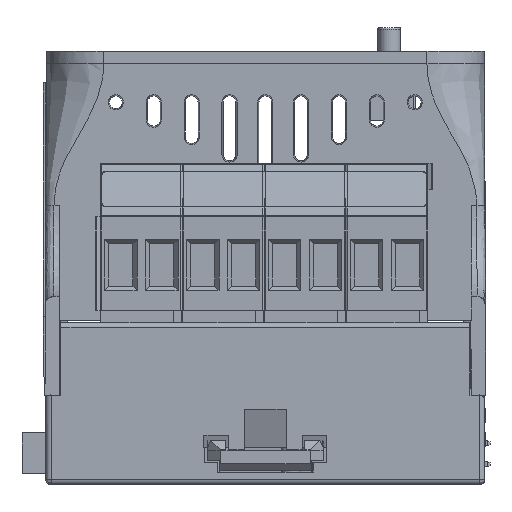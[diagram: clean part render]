
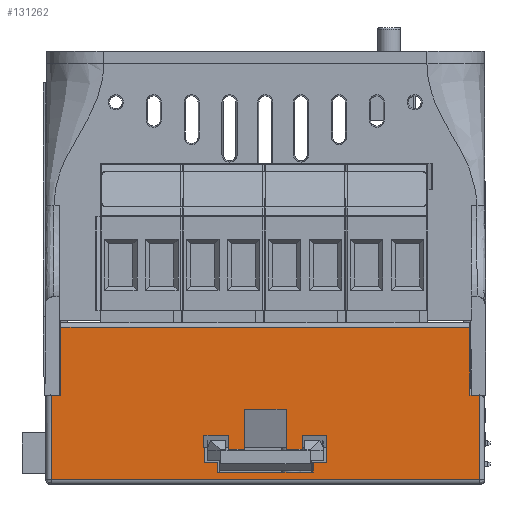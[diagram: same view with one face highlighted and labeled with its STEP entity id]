
A CAD part, front view. The second image highlights one B-rep face of the part: STEP entity #131262.
In plain terms, the highlighted planar face has unit normal (0, -1, 0).
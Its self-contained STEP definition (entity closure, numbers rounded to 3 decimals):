
#2484=FACE_BOUND('',#42693,.T.);
#5426=LINE('',#195409,#21132);
#5589=LINE('',#197328,#21295);
#5607=LINE('',#197555,#21313);
#5608=LINE('',#197560,#21314);
#5656=LINE('',#197682,#21362);
#5701=LINE('',#197781,#21407);
#5707=LINE('',#197793,#21413);
#5726=LINE('',#197834,#21432);
#5747=LINE('',#197876,#21453);
#5749=LINE('',#197881,#21455);
#6565=LINE('',#199933,#22271);
#6566=LINE('',#199936,#22272);
#6568=LINE('',#199940,#22274);
#6570=LINE('',#199944,#22276);
#6573=LINE('',#199949,#22279);
#6574=LINE('',#199951,#22280);
#6576=LINE('',#199955,#22282);
#6578=LINE('',#199959,#22284);
#6579=LINE('',#199962,#22285);
#6581=LINE('',#199965,#22287);
#6582=LINE('',#199968,#22288);
#6583=LINE('',#199970,#22289);
#6584=LINE('',#199973,#22290);
#6585=LINE('',#199975,#22291);
#6586=LINE('',#199977,#22292);
#6587=LINE('',#199979,#22293);
#21132=VECTOR('',#150885,1.);
#21295=VECTOR('',#151350,1.);
#21313=VECTOR('',#151400,1.);
#21314=VECTOR('',#151407,1.);
#21362=VECTOR('',#151515,1.);
#21407=VECTOR('',#151602,1.);
#21413=VECTOR('',#151610,1.);
#21432=VECTOR('',#151635,1.);
#21453=VECTOR('',#151662,1.);
#21455=VECTOR('',#151666,1.);
#22271=VECTOR('',#153512,1.);
#22272=VECTOR('',#153515,1.);
#22274=VECTOR('',#153519,1.);
#22276=VECTOR('',#153523,1.);
#22279=VECTOR('',#153528,1.);
#22280=VECTOR('',#153531,1.);
#22282=VECTOR('',#153535,1.);
#22284=VECTOR('',#153539,1.);
#22285=VECTOR('',#153542,1.);
#22287=VECTOR('',#153546,1.);
#22288=VECTOR('',#153551,1.);
#22289=VECTOR('',#153554,1.);
#22290=VECTOR('',#153559,1.);
#22291=VECTOR('',#153562,1.);
#22292=VECTOR('',#153565,1.);
#22293=VECTOR('',#153568,1.);
#35817=FACE_OUTER_BOUND('',#42692,.T.);
#42692=EDGE_LOOP('',(#90207,#90208,#90209,#90210,#90211,#90212,#90213,#90214,
#90215,#90216));
#42693=EDGE_LOOP('',(#90217,#90218,#90219,#90220,#90221,#90222,#90223,#90224,
#90225,#90226,#90227,#90228,#90229,#90230,#90231,#90232));
#52354=VERTEX_POINT('',#194579);
#52449=VERTEX_POINT('',#195408);
#52584=VERTEX_POINT('',#197314);
#52586=VERTEX_POINT('',#197327);
#52599=VERTEX_POINT('',#197554);
#52600=VERTEX_POINT('',#197558);
#52643=VERTEX_POINT('',#197679);
#52644=VERTEX_POINT('',#197681);
#52676=VERTEX_POINT('',#197778);
#52677=VERTEX_POINT('',#197780);
#52681=VERTEX_POINT('',#197790);
#52682=VERTEX_POINT('',#197792);
#52700=VERTEX_POINT('',#197831);
#52701=VERTEX_POINT('',#197833);
#52719=VERTEX_POINT('',#197874);
#52721=VERTEX_POINT('',#197880);
#53293=VERTEX_POINT('',#199872);
#53297=VERTEX_POINT('',#199905);
#53298=VERTEX_POINT('',#199931);
#53299=VERTEX_POINT('',#199935);
#53300=VERTEX_POINT('',#199939);
#53301=VERTEX_POINT('',#199943);
#53302=VERTEX_POINT('',#199947);
#53303=VERTEX_POINT('',#199953);
#53304=VERTEX_POINT('',#199957);
#53305=VERTEX_POINT('',#199961);
#65575=EDGE_CURVE('',#52449,#52354,#5426,.T.);
#65830=EDGE_CURVE('',#52586,#52584,#5589,.T.);
#65858=EDGE_CURVE('',#52599,#52449,#5607,.T.);
#65861=EDGE_CURVE('',#52584,#52600,#5608,.T.);
#65923=EDGE_CURVE('',#52644,#52643,#5656,.T.);
#65975=EDGE_CURVE('',#52677,#52676,#5701,.T.);
#65981=EDGE_CURVE('',#52681,#52682,#5707,.T.);
#66002=EDGE_CURVE('',#52700,#52701,#5726,.T.);
#66025=EDGE_CURVE('',#52676,#52719,#5747,.T.);
#66027=EDGE_CURVE('',#52721,#52677,#5749,.T.);
#67000=EDGE_CURVE('',#52700,#53298,#6565,.T.);
#67001=EDGE_CURVE('',#52701,#53299,#6566,.T.);
#67003=EDGE_CURVE('',#53300,#53299,#6568,.T.);
#67005=EDGE_CURVE('',#53301,#52721,#6570,.T.);
#67008=EDGE_CURVE('',#53302,#53301,#6573,.T.);
#67009=EDGE_CURVE('',#53302,#52681,#6574,.T.);
#67011=EDGE_CURVE('',#53303,#52682,#6576,.T.);
#67013=EDGE_CURVE('',#53303,#53304,#6578,.T.);
#67014=EDGE_CURVE('',#53305,#53304,#6579,.T.);
#67016=EDGE_CURVE('',#53305,#53298,#6581,.T.);
#67017=EDGE_CURVE('',#52643,#52599,#6582,.T.);
#67018=EDGE_CURVE('',#52644,#52600,#6583,.T.);
#67019=EDGE_CURVE('',#53293,#52586,#6584,.T.);
#67020=EDGE_CURVE('',#53297,#53293,#6585,.T.);
#67021=EDGE_CURVE('',#52354,#53297,#6586,.T.);
#67022=EDGE_CURVE('',#52719,#53300,#6587,.T.);
#90207=ORIENTED_EDGE('',*,*,#67021,.T.);
#90208=ORIENTED_EDGE('',*,*,#67020,.T.);
#90209=ORIENTED_EDGE('',*,*,#67019,.T.);
#90210=ORIENTED_EDGE('',*,*,#65830,.T.);
#90211=ORIENTED_EDGE('',*,*,#65861,.T.);
#90212=ORIENTED_EDGE('',*,*,#67018,.F.);
#90213=ORIENTED_EDGE('',*,*,#65923,.T.);
#90214=ORIENTED_EDGE('',*,*,#67017,.T.);
#90215=ORIENTED_EDGE('',*,*,#65858,.T.);
#90216=ORIENTED_EDGE('',*,*,#65575,.T.);
#90217=ORIENTED_EDGE('',*,*,#67016,.F.);
#90218=ORIENTED_EDGE('',*,*,#67014,.T.);
#90219=ORIENTED_EDGE('',*,*,#67013,.F.);
#90220=ORIENTED_EDGE('',*,*,#67011,.T.);
#90221=ORIENTED_EDGE('',*,*,#65981,.F.);
#90222=ORIENTED_EDGE('',*,*,#67009,.F.);
#90223=ORIENTED_EDGE('',*,*,#67008,.T.);
#90224=ORIENTED_EDGE('',*,*,#67005,.T.);
#90225=ORIENTED_EDGE('',*,*,#66027,.T.);
#90226=ORIENTED_EDGE('',*,*,#65975,.T.);
#90227=ORIENTED_EDGE('',*,*,#66025,.T.);
#90228=ORIENTED_EDGE('',*,*,#67022,.T.);
#90229=ORIENTED_EDGE('',*,*,#67003,.T.);
#90230=ORIENTED_EDGE('',*,*,#67001,.F.);
#90231=ORIENTED_EDGE('',*,*,#66002,.F.);
#90232=ORIENTED_EDGE('',*,*,#67000,.T.);
#118499=PLANE('',#138781);
#131262=ADVANCED_FACE('',(#35817,#2484),#118499,.F.);
#138781=AXIS2_PLACEMENT_3D('',#199980,#153569,#153570);
#150885=DIRECTION('',(-1.,0.,0.));
#151350=DIRECTION('',(-1.,0.,0.));
#151400=DIRECTION('',(-1.,0.,0.));
#151407=DIRECTION('',(-1.,0.,0.));
#151515=DIRECTION('',(-1.,0.,0.));
#151602=DIRECTION('',(1.,0.,0.));
#151610=DIRECTION('',(0.009,0.,-1.));
#151635=DIRECTION('',(0.009,0.,1.));
#151662=DIRECTION('',(0.,0.,-1.));
#151666=DIRECTION('',(0.,0.,1.));
#153512=DIRECTION('',(-1.,0.,0.));
#153515=DIRECTION('',(-1.,0.,-0.009));
#153519=DIRECTION('',(-0.009,0.,1.));
#153523=DIRECTION('',(1.,0.,0.));
#153528=DIRECTION('',(-0.009,0.,-1.));
#153531=DIRECTION('',(-1.,0.,0.009));
#153535=DIRECTION('',(-1.,0.,0.));
#153539=DIRECTION('',(0.009,0.,-1.));
#153542=DIRECTION('',(-1.,0.,0.));
#153546=DIRECTION('',(0.009,0.,1.));
#153551=DIRECTION('',(0.,0.,-1.));
#153554=DIRECTION('',(0.,0.,-1.));
#153559=DIRECTION('',(0.,0.,1.));
#153562=DIRECTION('',(1.,0.,0.));
#153565=DIRECTION('',(0.,0.,-1.));
#153568=DIRECTION('',(1.,0.,0.));
#153569=DIRECTION('center_axis',(0.,1.,0.));
#153570=DIRECTION('ref_axis',(0.,0.,
1.));
#194579=CARTESIAN_POINT('',(-26.15,-44.622,4.871));
#195408=CARTESIAN_POINT('',(-25.14,-44.622,4.871));
#195409=CARTESIAN_POINT('',(-25.908,-44.622,4.871));
#197314=CARTESIAN_POINT('',(25.14,-44.622,4.871));
#197327=CARTESIAN_POINT('',(26.15,-44.622,4.871));
#197328=CARTESIAN_POINT('',(25.908,-44.622,4.871));
#197554=CARTESIAN_POINT('',(-24.941,-44.622,4.871));
#197555=CARTESIAN_POINT('',(-25.908,-44.622,4.871));
#197558=CARTESIAN_POINT('',(24.941,-44.622,4.871));
#197560=CARTESIAN_POINT('',(25.908,-44.622,4.871));
#197679=CARTESIAN_POINT('',(-24.941,-44.622,13.156));
#197681=CARTESIAN_POINT('',(24.941,-44.622,13.156));
#197682=CARTESIAN_POINT('',(38.979,-44.622,13.156));
#197778=CARTESIAN_POINT('',(2.55,-44.622,3.175));
#197780=CARTESIAN_POINT('',(-2.55,-44.622,3.175));
#197781=CARTESIAN_POINT('',(38.979,-44.622,3.175));
#197790=CARTESIAN_POINT('',(-7.496,-44.622,0.011));
#197792=CARTESIAN_POINT('',(-7.467,-44.622,-3.32));
#197793=CARTESIAN_POINT('',(-7.645,-44.622,17.1));
#197831=CARTESIAN_POINT('',(7.467,-44.622,-3.32));
#197833=CARTESIAN_POINT('',(7.496,-44.622,0.011));
#197834=CARTESIAN_POINT('',(7.645,-44.622,17.1));
#197874=CARTESIAN_POINT('',(2.55,-44.622,-1.725));
#197876=CARTESIAN_POINT('',(2.55,-44.622,6.016));
#197880=CARTESIAN_POINT('',(-2.55,-44.622,-1.725));
#197881=CARTESIAN_POINT('',(-2.55,-44.622,6.016));
#199872=CARTESIAN_POINT('',(26.15,-44.622,-5.4));
#199905=CARTESIAN_POINT('',(-26.15,-44.622,-5.4));
#199931=CARTESIAN_POINT('',(5.867,-44.622,-3.32));
#199933=CARTESIAN_POINT('',(3.728,-44.622,-3.32));
#199935=CARTESIAN_POINT('',(4.483,-44.622,-0.015));
#199936=CARTESIAN_POINT('',(3.784,-44.622,-0.021));
#199939=CARTESIAN_POINT('',(4.498,-44.622,-1.725));
#199940=CARTESIAN_POINT('',(4.443,-44.622,4.558));
#199943=CARTESIAN_POINT('',(-4.498,-44.622,-1.725));
#199944=CARTESIAN_POINT('',(38.979,-44.622,-1.725));
#199947=CARTESIAN_POINT('',(-4.483,-44.622,-0.015));
#199949=CARTESIAN_POINT('',(-4.443,-44.622,4.558));
#199951=CARTESIAN_POINT('',(-3.784,-44.622,-0.021));
#199953=CARTESIAN_POINT('',(-5.867,-44.622,-3.32));
#199955=CARTESIAN_POINT('',(-3.728,-44.622,-3.32));
#199957=CARTESIAN_POINT('',(-5.857,-44.622,-4.5));
#199959=CARTESIAN_POINT('',(-5.855,-44.622,-4.646));
#199961=CARTESIAN_POINT('',(5.857,-44.622,-4.5));
#199962=CARTESIAN_POINT('',(38.979,-44.622,-4.5));
#199965=CARTESIAN_POINT('',(5.855,-44.622,-4.646));
#199968=CARTESIAN_POINT('',(-24.941,-44.622,17.506));
#199970=CARTESIAN_POINT('',(24.941,-44.622,17.506));
#199973=CARTESIAN_POINT('',(26.15,-44.622,17.506));
#199975=CARTESIAN_POINT('',(26.15,-44.622,-5.4));
#199977=CARTESIAN_POINT('',(-26.15,-44.622,17.506));
#199979=CARTESIAN_POINT('',(-38.979,-44.622,-1.725));
#199980=CARTESIAN_POINT('Origin',(38.979,-44.622,17.506));
